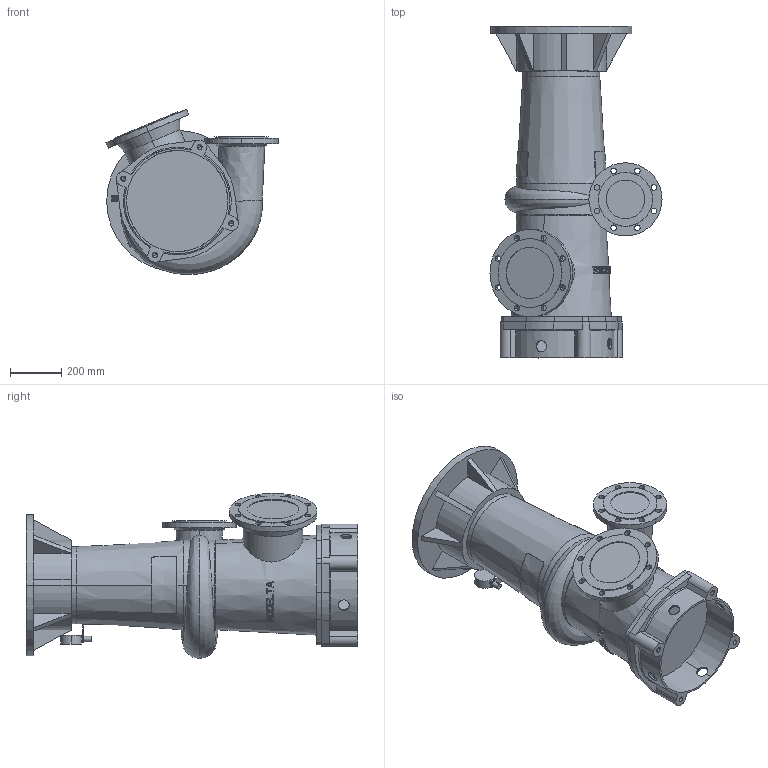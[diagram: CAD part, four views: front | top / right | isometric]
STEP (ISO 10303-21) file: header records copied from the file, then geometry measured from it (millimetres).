
FILE_DESCRIPTION((''),'2;1');
FILE_NAME('7410_VOOR_BLAD_ASM','2024-07-23T',('Lyritlocal'),(''),'PRO/ENGINEER BY PARAMETRIC TECHNOLOGY CORPORATION, 2016360','PRO/ENGINEER BY PARAMETRIC TECHNOLOGY CORPORATION, 2016360','');
FILE_SCHEMA(('CONFIG_CONTROL_DESIGN'));
Length unit declared in the file: millimetre
Products named in the file (3): 7410; 7410_VOET; 7410_VOOR_BLAD_ASM
Assembly tree (2 placements, depth 2):
  7410_VOOR_BLAD_ASM
    7410
    7410_VOET
Bounding box: 670.49 x 1292 x 643.29 mm (x, y, z)
Volume: 142858668 mm3; surface area: 3346063.5 mm2
Topology: 2 solids, 6 shells, 554 faces, 1491 edges, 983 vertices
Faces by surface type: plane 368, cylinder 138, cone 38, bspline 6, torus 4
Entity records: 19705 total; most frequent: CARTESIAN_POINT 6220, ORIENTED_EDGE 2950, DIRECTION 2529, EDGE_CURVE 1483, VERTEX_POINT 983, AXIS2_PLACEMENT_3D 961, EDGE_LOOP 646, VECTOR 607
